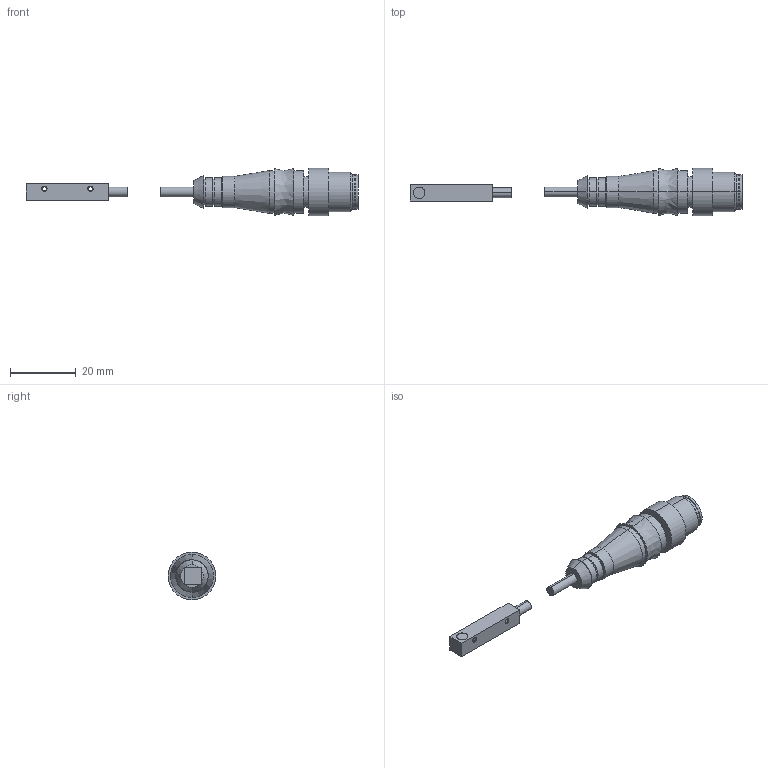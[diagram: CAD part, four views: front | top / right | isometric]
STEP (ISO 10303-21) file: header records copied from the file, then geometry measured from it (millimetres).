
FILE_DESCRIPTION (( 'STEP AP203' ), '1' );
FILE_NAME ('15000037.STEP', '2019-02-15T14:31:09', ( '' ), ( '' ), 'SwSTEP 2.0', 'SolidWorks 2015', '' );
FILE_SCHEMA (( 'CONFIG_CONTROL_DESIGN' ));
Length unit declared in the file: millimetre
Products named in the file (1): 15000037
Bounding box: 101 x 14.5 x 14.5 mm (x, y, z)
Volume: 5692 mm3; surface area: 3283.5 mm2
Topology: 2 solids, 2 shells, 114 faces, 235 edges, 148 vertices
Faces by surface type: cylinder 52, plane 34, cone 22, bspline 6
Entity records: 3200 total; most frequent: CARTESIAN_POINT 594, DIRECTION 591, ORIENTED_EDGE 470, AXIS2_PLACEMENT_3D 249, EDGE_CURVE 235, VERTEX_POINT 148, EDGE_LOOP 141, CIRCLE 140
